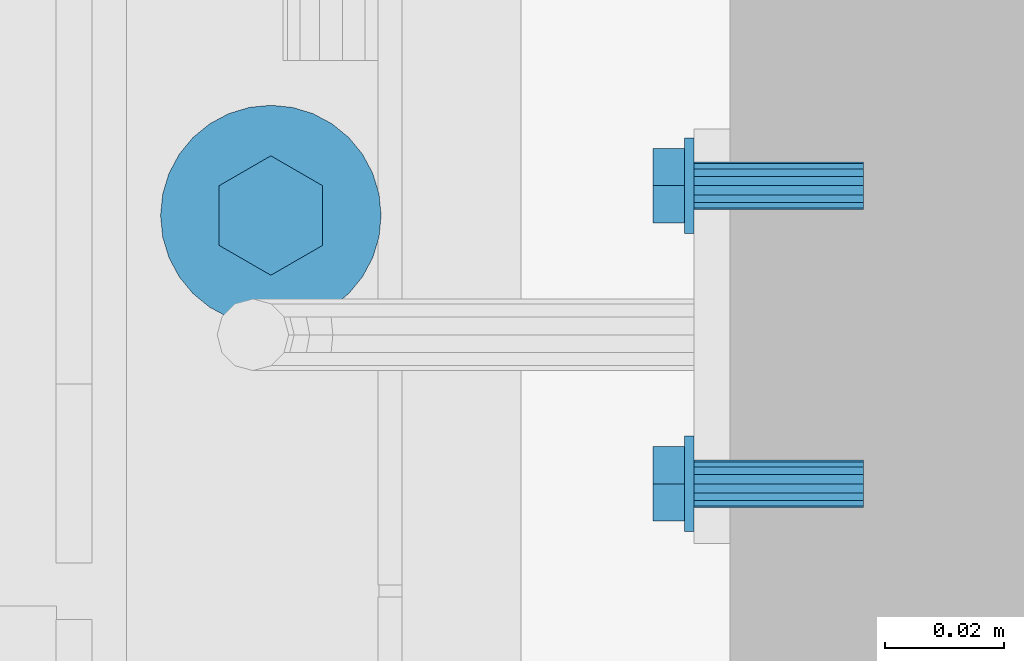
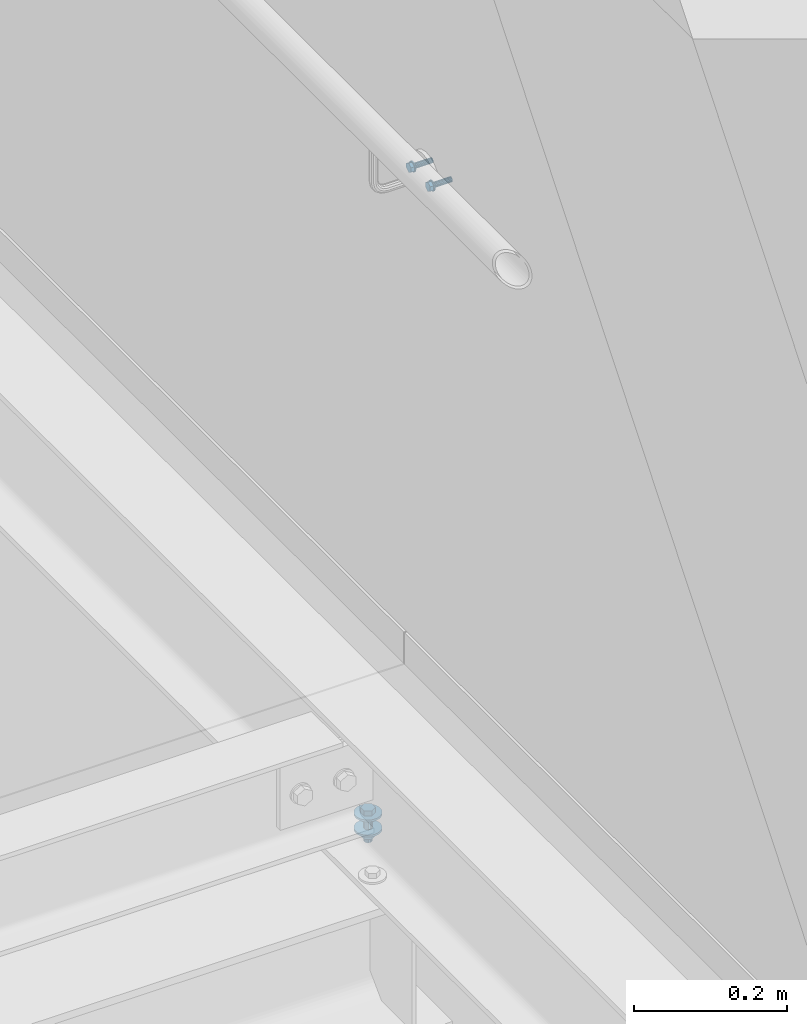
# One storey, part 314 of 410: 2 mechanical fasteners.
"""IFC2X3 building model written with IfcOpenShell, lengths in millimetres."""

from ifc_helpers import new_model, entity, si_unit, converted_unit, origin_with_axes, place, context, project, spatial, faceted_brep, element, save


model = new_model("IFC2X3")

# Units and contexts
model_context = context("Model", 3, precision=1e-09, world=origin_with_axes())
ifc_project = project(units=[si_unit("LENGTHUNIT", "METRE", prefix="MILLI"), si_unit("AREAUNIT", "SQUARE_METRE"), si_unit("VOLUMEUNIT", "CUBIC_METRE"), converted_unit("PLANEANGLEUNIT", "DEGREE", entity("IfcPlaneAngleMeasure", 0.01745329), si_unit("PLANEANGLEUNIT", "RADIAN"), dimensions=[0, 0, 0, 0, 0, 0, 0])], contexts=[model_context])

# Site, building, storey
site_placement = place(None, origin_with_axes())
site = spatial("IfcSite", under=ifc_project, at=site_placement, Name="mKR Teilneubau & Sanierung BA1 - Ostfildern", CompositionType="ELEMENT")
building_placement = place(site_placement, origin_with_axes())
building = spatial("IfcBuilding", under=site, at=building_placement, Name="Struktur 1", CompositionType="ELEMENT")
storey_placement = place(building_placement, origin_with_axes())
storey = spatial("IfcBuildingStorey", under=building, at=storey_placement, Name="Default Storey", CompositionType="ELEMENT", Elevation=0.0)

# Mechanical fasteners
mechanical_fastener_1_placement = place(None, origin_with_axes())
element("IfcMechanicalFastener", 1, at=mechanical_fastener_1_placement, inside=storey, ObjectType="-", NominalDiameter=8.0, NominalLength=30.0, context=model_context, shape_type="Brep", body=[
    faceted_brep([(3282.399216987, 17006.000030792, 6657.6), (3283.999216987, 17006.000030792, 6657.6), (3283.999216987, 17005.846313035, 6656.039277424), (3282.399216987, 17005.846313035, 6656.039277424), (3283.999216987, 17005.391067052, 6654.538532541), (3282.399216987, 17005.391067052, 6654.538532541), (3283.999216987, 17004.65178769, 6653.155438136), (3282.399216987, 17004.65178769, 6653.155438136), (3283.999216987, 17003.656885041, 6651.94314575), (3282.399216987, 17003.656885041, 6651.94314575), (3283.999216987, 17002.444592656, 6650.948243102), (3282.399216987, 17002.444592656, 6650.948243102), (3283.999216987, 17001.061498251, 6650.20896374), (3282.399216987, 17001.061498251, 6650.20896374), (3283.999216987, 16999.560753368, 6649.753717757), (3282.399216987, 16999.560753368, 6649.753717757), (3283.999216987, 16998.000030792, 6649.6), (3282.399216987, 16998.000030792, 6649.6), (3283.999216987, 16996.439308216, 6649.753717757), (3282.399216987, 16996.439308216, 6649.753717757), (3283.999216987, 16994.938563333, 6650.20896374), (3282.399216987, 16994.938563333, 6650.20896374), (3283.999216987, 16993.555468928, 6650.948243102), (3282.399216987, 16993.555468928, 6650.948243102), (3283.999216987, 16992.343176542, 6651.94314575), (3282.399216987, 16992.343176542, 6651.94314575), (3283.999216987, 16991.348273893, 6653.155438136), (3282.399216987, 16991.348273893, 6653.155438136), (3283.999216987, 16990.608994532, 6654.538532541), (3282.399216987, 16990.608994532, 6654.538532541), (3283.999216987, 16990.153748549, 6656.039277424), (3282.399216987, 16990.153748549, 6656.039277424), (3283.999216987, 16990.000030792, 6657.6), (3282.399216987, 16990.000030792, 6657.6), (3283.999216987, 16990.153748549, 6659.160722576), (3282.399216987, 16990.153748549, 6659.160722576), (3283.999216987, 16990.608994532, 6660.661467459), (3282.399216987, 16990.608994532, 6660.661467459), (3283.999216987, 16991.348273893, 6662.044561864), (3282.399216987, 16991.348273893, 6662.044561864), (3283.999216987, 16992.343176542, 6663.256854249), (3282.399216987, 16992.343176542, 6663.256854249), (3283.999216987, 16993.555468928, 6664.251756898), (3282.399216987, 16993.555468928, 6664.251756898), (3283.999216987, 16994.938563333, 6664.99103626), (3282.399216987, 16994.938563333, 6664.99103626), (3283.999216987, 16996.439308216, 6665.446282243), (3282.399216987, 16996.439308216, 6665.446282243), (3283.999216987, 16998.000030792, 6665.6), (3282.399216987, 16998.000030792, 6665.6), (3283.999216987, 16999.560753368, 6665.446282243), (3282.399216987, 16999.560753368, 6665.446282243), (3283.999216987, 17001.061498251, 6664.99103626), (3282.399216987, 17001.061498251, 6664.99103626), (3283.999216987, 17002.444592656, 6664.251756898), (3282.399216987, 17002.444592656, 6664.251756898), (3283.999216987, 17003.656885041, 6663.256854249), (3282.399216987, 17003.656885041, 6663.256854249), (3283.999216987, 17004.65178769, 6662.044561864), (3282.399216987, 17004.65178769, 6662.044561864), (3283.999216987, 17005.391067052, 6660.661467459), (3282.399216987, 17005.391067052, 6660.661467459), (3283.999216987, 17005.846313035, 6659.160722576), (3282.399216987, 17005.846313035, 6659.160722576)], [[[0, 1, 2, 3]], [[3, 2, 4, 5]], [[5, 4, 6, 7]], [[7, 6, 8, 9]], [[9, 8, 10, 11]], [[11, 10, 12, 13]], [[13, 12, 14, 15]], [[15, 14, 16, 17]], [[17, 16, 18, 19]], [[19, 18, 20, 21]], [[21, 20, 22, 23]], [[23, 22, 24, 25]], [[25, 24, 26, 27]], [[27, 26, 28, 29]], [[29, 28, 30, 31]], [[31, 30, 32, 33]], [[33, 32, 34, 35]], [[35, 34, 36, 37]], [[37, 36, 38, 39]], [[39, 38, 40, 41]], [[41, 40, 42, 43]], [[43, 42, 44, 45]], [[45, 44, 46, 47]], [[47, 46, 48, 49]], [[49, 48, 50, 51]], [[51, 50, 52, 53]], [[53, 52, 54, 55]], [[55, 54, 56, 57]], [[57, 56, 58, 59]], [[59, 58, 60, 61]], [[61, 60, 62, 63]], [[63, 62, 1, 0]], [[0, 3, 5, 7, 9, 11, 13, 15, 17, 19, 21, 23, 25, 27, 29, 31, 33, 35, 37, 39, 41, 43, 45, 47, 49, 51, 53, 55, 57, 59, 61, 63]], [[1, 62, 60, 58, 56, 54, 52, 50, 48, 46, 44, 42, 40, 38, 36, 34, 32, 30, 28, 26, 24, 22, 20, 18, 16, 14, 12, 10, 8, 6, 4, 2]]]),
    faceted_brep([(3282.399216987, 17056.000030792, 6657.6), (3283.999216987, 17056.000030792, 6657.6), (3283.999216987, 17055.846313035, 6656.039277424), (3282.399216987, 17055.846313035, 6656.039277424), (3283.999216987, 17055.391067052, 6654.538532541), (3282.399216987, 17055.391067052, 6654.538532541), (3283.999216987, 17054.65178769, 6653.155438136), (3282.399216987, 17054.65178769, 6653.155438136), (3283.999216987, 17053.656885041, 6651.94314575), (3282.399216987, 17053.656885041, 6651.94314575), (3283.999216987, 17052.444592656, 6650.948243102), (3282.399216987, 17052.444592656, 6650.948243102), (3283.999216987, 17051.061498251, 6650.20896374), (3282.399216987, 17051.061498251, 6650.20896374), (3283.999216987, 17049.560753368, 6649.753717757), (3282.399216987, 17049.560753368, 6649.753717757), (3283.999216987, 17048.000030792, 6649.6), (3282.399216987, 17048.000030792, 6649.6), (3283.999216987, 17046.439308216, 6649.753717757), (3282.399216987, 17046.439308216, 6649.753717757), (3283.999216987, 17044.938563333, 6650.20896374), (3282.399216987, 17044.938563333, 6650.20896374), (3283.999216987, 17043.555468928, 6650.948243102), (3282.399216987, 17043.555468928, 6650.948243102), (3283.999216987, 17042.343176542, 6651.94314575), (3282.399216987, 17042.343176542, 6651.94314575), (3283.999216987, 17041.348273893, 6653.155438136), (3282.399216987, 17041.348273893, 6653.155438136), (3283.999216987, 17040.608994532, 6654.538532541), (3282.399216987, 17040.608994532, 6654.538532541), (3283.999216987, 17040.153748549, 6656.039277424), (3282.399216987, 17040.153748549, 6656.039277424), (3283.999216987, 17040.000030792, 6657.6), (3282.399216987, 17040.000030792, 6657.6), (3283.999216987, 17040.153748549, 6659.160722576), (3282.399216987, 17040.153748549, 6659.160722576), (3283.999216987, 17040.608994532, 6660.661467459), (3282.399216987, 17040.608994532, 6660.661467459), (3283.999216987, 17041.348273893, 6662.044561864), (3282.399216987, 17041.348273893, 6662.044561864), (3283.999216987, 17042.343176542, 6663.256854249), (3282.399216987, 17042.343176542, 6663.256854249), (3283.999216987, 17043.555468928, 6664.251756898), (3282.399216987, 17043.555468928, 6664.251756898), (3283.999216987, 17044.938563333, 6664.99103626), (3282.399216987, 17044.938563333, 6664.99103626), (3283.999216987, 17046.439308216, 6665.446282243), (3282.399216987, 17046.439308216, 6665.446282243), (3283.999216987, 17048.000030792, 6665.6), (3282.399216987, 17048.000030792, 6665.6), (3283.999216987, 17049.560753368, 6665.446282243), (3282.399216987, 17049.560753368, 6665.446282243), (3283.999216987, 17051.061498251, 6664.99103626), (3282.399216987, 17051.061498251, 6664.99103626), (3283.999216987, 17052.444592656, 6664.251756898), (3282.399216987, 17052.444592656, 6664.251756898), (3283.999216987, 17053.656885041, 6663.256854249), (3282.399216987, 17053.656885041, 6663.256854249), (3283.999216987, 17054.65178769, 6662.044561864), (3282.399216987, 17054.65178769, 6662.044561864), (3283.999216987, 17055.391067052, 6660.661467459), (3282.399216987, 17055.391067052, 6660.661467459), (3283.999216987, 17055.846313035, 6659.160722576), (3282.399216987, 17055.846313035, 6659.160722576)], [[[0, 1, 2, 3]], [[3, 2, 4, 5]], [[5, 4, 6, 7]], [[7, 6, 8, 9]], [[9, 8, 10, 11]], [[11, 10, 12, 13]], [[13, 12, 14, 15]], [[15, 14, 16, 17]], [[17, 16, 18, 19]], [[19, 18, 20, 21]], [[21, 20, 22, 23]], [[23, 22, 24, 25]], [[25, 24, 26, 27]], [[27, 26, 28, 29]], [[29, 28, 30, 31]], [[31, 30, 32, 33]], [[33, 32, 34, 35]], [[35, 34, 36, 37]], [[37, 36, 38, 39]], [[39, 38, 40, 41]], [[41, 40, 42, 43]], [[43, 42, 44, 45]], [[45, 44, 46, 47]], [[47, 46, 48, 49]], [[49, 48, 50, 51]], [[51, 50, 52, 53]], [[53, 52, 54, 55]], [[55, 54, 56, 57]], [[57, 56, 58, 59]], [[59, 58, 60, 61]], [[61, 60, 62, 63]], [[63, 62, 1, 0]], [[0, 3, 5, 7, 9, 11, 13, 15, 17, 19, 21, 23, 25, 27, 29, 31, 33, 35, 37, 39, 41, 43, 45, 47, 49, 51, 53, 55, 57, 59, 61, 63]], [[1, 62, 60, 58, 56, 54, 52, 50, 48, 46, 44, 42, 40, 38, 36, 34, 32, 30, 28, 26, 24, 22, 20, 18, 16, 14, 12, 10, 8, 6, 4, 2]]]),
    faceted_brep([(3282.399216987, 16991.773308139, 6654.005), (3277.099216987, 16991.773308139, 6654.005), (3277.099216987, 16998.000030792, 6650.41), (3282.399216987, 16998.000030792, 6650.41), (3277.099216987, 17004.226753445, 6654.005), (3282.399216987, 17004.226753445, 6654.005), (3277.099216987, 17004.226753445, 6661.195), (3282.399216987, 17004.226753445, 6661.195), (3277.099216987, 16998.000030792, 6664.79), (3282.399216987, 16998.000030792, 6664.79), (3277.099216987, 16991.773308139, 6661.195), (3282.399216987, 16991.773308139, 6661.195)], [[[0, 1, 2, 3]], [[3, 2, 4, 5]], [[5, 4, 6, 7]], [[7, 6, 8, 9]], [[9, 8, 10, 11]], [[11, 10, 1, 0]], [[4, 2, 1, 10, 8, 6]], [[0, 3, 5, 7, 9, 11]]]),
    faceted_brep([(3282.399216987, 17041.773308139, 6654.005), (3277.099216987, 17041.773308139, 6654.005), (3277.099216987, 17048.000030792, 6650.41), (3282.399216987, 17048.000030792, 6650.41), (3277.099216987, 17054.226753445, 6654.005), (3282.399216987, 17054.226753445, 6654.005), (3277.099216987, 17054.226753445, 6661.195), (3282.399216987, 17054.226753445, 6661.195), (3277.099216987, 17048.000030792, 6664.79), (3282.399216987, 17048.000030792, 6664.79), (3277.099216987, 17041.773308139, 6661.195), (3282.399216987, 17041.773308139, 6661.195)], [[[0, 1, 2, 3]], [[3, 2, 4, 5]], [[5, 4, 6, 7]], [[7, 6, 8, 9]], [[9, 8, 10, 11]], [[11, 10, 1, 0]], [[4, 2, 1, 10, 8, 6]], [[0, 3, 5, 7, 9, 11]]]),
    faceted_brep([(3283.999216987, 17002.000030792, 6657.6), (3293.999216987, 17002.000030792, 6657.6), (3293.999216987, 17001.695548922, 6656.069266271), (3283.999216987, 17001.695548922, 6656.069266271), (3293.999216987, 17000.828457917, 6654.771572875), (3283.999216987, 17000.828457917, 6654.771572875), (3293.999216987, 16999.530764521, 6653.90448187), (3283.999216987, 16999.530764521, 6653.90448187), (3293.999216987, 16998.000030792, 6653.6), (3283.999216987, 16998.000030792, 6653.6), (3293.999216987, 16996.469297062, 6653.90448187), (3283.999216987, 16996.469297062, 6653.90448187), (3293.999216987, 16995.171603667, 6654.771572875), (3283.999216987, 16995.171603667, 6654.771572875), (3293.999216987, 16994.304512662, 6656.069266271), (3283.999216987, 16994.304512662, 6656.069266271), (3293.999216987, 16994.000030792, 6657.6), (3283.999216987, 16994.000030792, 6657.6), (3293.999216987, 16994.304512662, 6659.130733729), (3283.999216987, 16994.304512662, 6659.130733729), (3293.999216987, 16995.171603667, 6660.428427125), (3283.999216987, 16995.171603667, 6660.428427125), (3293.999216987, 16996.469297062, 6661.29551813), (3283.999216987, 16996.469297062, 6661.29551813), (3293.999216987, 16998.000030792, 6661.6), (3283.999216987, 16998.000030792, 6661.6), (3293.999216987, 16999.530764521, 6661.29551813), (3283.999216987, 16999.530764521, 6661.29551813), (3293.999216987, 17000.828457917, 6660.428427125), (3283.999216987, 17000.828457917, 6660.428427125), (3293.999216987, 17001.695548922, 6659.130733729), (3283.999216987, 17001.695548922, 6659.130733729)], [[[0, 1, 2, 3]], [[3, 2, 4, 5]], [[5, 4, 6, 7]], [[7, 6, 8, 9]], [[9, 8, 10, 11]], [[11, 10, 12, 13]], [[13, 12, 14, 15]], [[15, 14, 16, 17]], [[17, 16, 18, 19]], [[19, 18, 20, 21]], [[21, 20, 22, 23]], [[23, 22, 24, 25]], [[25, 24, 26, 27]], [[27, 26, 28, 29]], [[29, 28, 30, 31]], [[31, 30, 1, 0]], [[0, 3, 5, 7, 9, 11, 13, 15, 17, 19, 21, 23, 25, 27, 29, 31]], [[1, 30, 28, 26, 24, 22, 20, 18, 16, 14, 12, 10, 8, 6, 4, 2]]]),
    faceted_brep([(3283.999216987, 17052.000030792, 6657.6), (3293.999216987, 17052.000030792, 6657.6), (3293.999216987, 17051.695548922, 6656.069266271), (3283.999216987, 17051.695548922, 6656.069266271), (3293.999216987, 17050.828457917, 6654.771572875), (3283.999216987, 17050.828457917, 6654.771572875), (3293.999216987, 17049.530764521, 6653.90448187), (3283.999216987, 17049.530764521, 6653.90448187), (3293.999216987, 17048.000030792, 6653.6), (3283.999216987, 17048.000030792, 6653.6), (3293.999216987, 17046.469297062, 6653.90448187), (3283.999216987, 17046.469297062, 6653.90448187), (3293.999216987, 17045.171603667, 6654.771572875), (3283.999216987, 17045.171603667, 6654.771572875), (3293.999216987, 17044.304512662, 6656.069266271), (3283.999216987, 17044.304512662, 6656.069266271), (3293.999216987, 17044.000030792, 6657.6), (3283.999216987, 17044.000030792, 6657.6), (3293.999216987, 17044.304512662, 6659.130733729), (3283.999216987, 17044.304512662, 6659.130733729), (3293.999216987, 17045.171603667, 6660.428427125), (3283.999216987, 17045.171603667, 6660.428427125), (3293.999216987, 17046.469297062, 6661.29551813), (3283.999216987, 17046.469297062, 6661.29551813), (3293.999216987, 17048.000030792, 6661.6), (3283.999216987, 17048.000030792, 6661.6), (3293.999216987, 17049.530764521, 6661.29551813), (3283.999216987, 17049.530764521, 6661.29551813), (3293.999216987, 17050.828457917, 6660.428427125), (3283.999216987, 17050.828457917, 6660.428427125), (3293.999216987, 17051.695548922, 6659.130733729), (3283.999216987, 17051.695548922, 6659.130733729)], [[[0, 1, 2, 3]], [[3, 2, 4, 5]], [[5, 4, 6, 7]], [[7, 6, 8, 9]], [[9, 8, 10, 11]], [[11, 10, 12, 13]], [[13, 12, 14, 15]], [[15, 14, 16, 17]], [[17, 16, 18, 19]], [[19, 18, 20, 21]], [[21, 20, 22, 23]], [[23, 22, 24, 25]], [[25, 24, 26, 27]], [[27, 26, 28, 29]], [[29, 28, 30, 31]], [[31, 30, 1, 0]], [[0, 3, 5, 7, 9, 11, 13, 15, 17, 19, 21, 23, 25, 27, 29, 31]], [[1, 30, 28, 26, 24, 22, 20, 18, 16, 14, 12, 10, 8, 6, 4, 2]]]),
    faceted_brep([(3293.999216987, 17002.000030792, 6657.6), (3312.399216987, 17002.000030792, 6657.6), (3312.399216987, 17001.695548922, 6656.069266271), (3293.999216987, 17001.695548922, 6656.069266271), (3312.399216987, 17000.828457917, 6654.771572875), (3293.999216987, 17000.828457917, 6654.771572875), (3312.399216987, 16999.530764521, 6653.90448187), (3293.999216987, 16999.530764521, 6653.90448187), (3312.399216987, 16998.000030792, 6653.6), (3293.999216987, 16998.000030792, 6653.6), (3312.399216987, 16996.469297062, 6653.90448187), (3293.999216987, 16996.469297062, 6653.90448187), (3312.399216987, 16995.171603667, 6654.771572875), (3293.999216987, 16995.171603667, 6654.771572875), (3312.399216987, 16994.304512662, 6656.069266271), (3293.999216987, 16994.304512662, 6656.069266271), (3312.399216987, 16994.000030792, 6657.6), (3293.999216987, 16994.000030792, 6657.6), (3312.399216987, 16994.304512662, 6659.130733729), (3293.999216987, 16994.304512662, 6659.130733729), (3312.399216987, 16995.171603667, 6660.428427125), (3293.999216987, 16995.171603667, 6660.428427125), (3312.399216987, 16996.469297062, 6661.29551813), (3293.999216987, 16996.469297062, 6661.29551813), (3312.399216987, 16998.000030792, 6661.6), (3293.999216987, 16998.000030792, 6661.6), (3312.399216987, 16999.530764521, 6661.29551813), (3293.999216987, 16999.530764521, 6661.29551813), (3312.399216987, 17000.828457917, 6660.428427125), (3293.999216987, 17000.828457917, 6660.428427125), (3312.399216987, 17001.695548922, 6659.130733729), (3293.999216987, 17001.695548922, 6659.130733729)], [[[0, 1, 2, 3]], [[3, 2, 4, 5]], [[5, 4, 6, 7]], [[7, 6, 8, 9]], [[9, 8, 10, 11]], [[11, 10, 12, 13]], [[13, 12, 14, 15]], [[15, 14, 16, 17]], [[17, 16, 18, 19]], [[19, 18, 20, 21]], [[21, 20, 22, 23]], [[23, 22, 24, 25]], [[25, 24, 26, 27]], [[27, 26, 28, 29]], [[29, 28, 30, 31]], [[31, 30, 1, 0]], [[0, 3, 5, 7, 9, 11, 13, 15, 17, 19, 21, 23, 25, 27, 29, 31]], [[1, 30, 28, 26, 24, 22, 20, 18, 16, 14, 12, 10, 8, 6, 4, 2]]]),
    faceted_brep([(3293.999216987, 17052.000030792, 6657.6), (3312.399216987, 17052.000030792, 6657.6), (3312.399216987, 17051.695548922, 6656.069266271), (3293.999216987, 17051.695548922, 6656.069266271), (3312.399216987, 17050.828457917, 6654.771572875), (3293.999216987, 17050.828457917, 6654.771572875), (3312.399216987, 17049.530764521, 6653.90448187), (3293.999216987, 17049.530764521, 6653.90448187), (3312.399216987, 17048.000030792, 6653.6), (3293.999216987, 17048.000030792, 6653.6), (3312.399216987, 17046.469297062, 6653.90448187), (3293.999216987, 17046.469297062, 6653.90448187), (3312.399216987, 17045.171603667, 6654.771572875), (3293.999216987, 17045.171603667, 6654.771572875), (3312.399216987, 17044.304512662, 6656.069266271), (3293.999216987, 17044.304512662, 6656.069266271), (3312.399216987, 17044.000030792, 6657.6), (3293.999216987, 17044.000030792, 6657.6), (3312.399216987, 17044.304512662, 6659.130733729), (3293.999216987, 17044.304512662, 6659.130733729), (3312.399216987, 17045.171603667, 6660.428427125), (3293.999216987, 17045.171603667, 6660.428427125), (3312.399216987, 17046.469297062, 6661.29551813), (3293.999216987, 17046.469297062, 6661.29551813), (3312.399216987, 17048.000030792, 6661.6), (3293.999216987, 17048.000030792, 6661.6), (3312.399216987, 17049.530764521, 6661.29551813), (3293.999216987, 17049.530764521, 6661.29551813), (3312.399216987, 17050.828457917, 6660.428427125), (3293.999216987, 17050.828457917, 6660.428427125), (3312.399216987, 17051.695548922, 6659.130733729), (3293.999216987, 17051.695548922, 6659.130733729)], [[[0, 1, 2, 3]], [[3, 2, 4, 5]], [[5, 4, 6, 7]], [[7, 6, 8, 9]], [[9, 8, 10, 11]], [[11, 10, 12, 13]], [[13, 12, 14, 15]], [[15, 14, 16, 17]], [[17, 16, 18, 19]], [[19, 18, 20, 21]], [[21, 20, 22, 23]], [[23, 22, 24, 25]], [[25, 24, 26, 27]], [[27, 26, 28, 29]], [[29, 28, 30, 31]], [[31, 30, 1, 0]], [[0, 3, 5, 7, 9, 11, 13, 15, 17, 19, 21, 23, 25, 27, 29, 31]], [[1, 30, 28, 26, 24, 22, 20, 18, 16, 14, 12, 10, 8, 6, 4, 2]]]),
])
mechanical_fastener_2_placement = place(None, origin_with_axes())
element("IfcMechanicalFastener", 2, at=mechanical_fastener_2_placement, inside=storey, ObjectType="Bolt", NominalDiameter=12.0, NominalLength=45.0, context=model_context, shape_type="Brep", body=[
    faceted_brep([(3231.501468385, 17043.0, 5654.200000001), (3231.501468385, 17043.0, 5657.200000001), (3231.145996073, 17039.390829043, 5657.200000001), (3231.145996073, 17039.390829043, 5654.200000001), (3230.093239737, 17035.920356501, 5657.200000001), (3230.093239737, 17035.920356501, 5654.200000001), (3228.383656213, 17032.721950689, 5657.200000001), (3228.383656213, 17032.721950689, 5654.200000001), (3226.082943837, 17029.918524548, 5657.200000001), (3226.082943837, 17029.918524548, 5654.200000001), (3223.279517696, 17027.617812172, 5657.200000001), (3223.279517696, 17027.617812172, 5654.200000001), (3220.081111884, 17025.908228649, 5657.200000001), (3220.081111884, 17025.908228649, 5654.200000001), (3216.610639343, 17024.855472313, 5657.200000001), (3216.610639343, 17024.855472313, 5654.200000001), (3213.001468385, 17024.5, 5657.200000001), (3213.001468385, 17024.5, 5654.200000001), (3209.392297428, 17024.855472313, 5657.200000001), (3209.392297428, 17024.855472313, 5654.200000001), (3205.921824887, 17025.908228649, 5657.200000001), (3205.921824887, 17025.908228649, 5654.200000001), (3202.723419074, 17027.617812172, 5657.200000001), (3202.723419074, 17027.617812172, 5654.200000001), (3199.919992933, 17029.918524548, 5657.200000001), (3199.919992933, 17029.918524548, 5654.200000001), (3197.619280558, 17032.721950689, 5657.200000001), (3197.619280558, 17032.721950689, 5654.200000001), (3195.909697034, 17035.920356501, 5657.200000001), (3195.909697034, 17035.920356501, 5654.200000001), (3194.856940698, 17039.390829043, 5657.200000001), (3194.856940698, 17039.390829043, 5654.200000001), (3194.501468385, 17043.0, 5657.200000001), (3194.501468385, 17043.0, 5654.200000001), (3194.856940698, 17046.609170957, 5657.200000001), (3194.856940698, 17046.609170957, 5654.200000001), (3195.909697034, 17050.079643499, 5657.200000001), (3195.909697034, 17050.079643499, 5654.200000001), (3197.619280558, 17053.278049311, 5657.200000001), (3197.619280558, 17053.278049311, 5654.200000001), (3199.919992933, 17056.081475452, 5657.200000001), (3199.919992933, 17056.081475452, 5654.200000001), (3202.723419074, 17058.382187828, 5657.200000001), (3202.723419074, 17058.382187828, 5654.200000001), (3205.921824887, 17060.091771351, 5657.200000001), (3205.921824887, 17060.091771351, 5654.200000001), (3209.392297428, 17061.144527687, 5657.200000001), (3209.392297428, 17061.144527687, 5654.200000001), (3213.001468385, 17061.5, 5657.200000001), (3213.001468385, 17061.5, 5654.200000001), (3216.610639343, 17061.144527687, 5657.200000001), (3216.610639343, 17061.144527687, 5654.200000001), (3220.081111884, 17060.091771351, 5657.200000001), (3220.081111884, 17060.091771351, 5654.200000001), (3223.279517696, 17058.382187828, 5657.200000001), (3223.279517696, 17058.382187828, 5654.200000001), (3226.082943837, 17056.081475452, 5657.200000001), (3226.082943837, 17056.081475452, 5654.200000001), (3228.383656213, 17053.278049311, 5657.200000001), (3228.383656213, 17053.278049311, 5654.200000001), (3230.093239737, 17050.079643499, 5657.200000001), (3230.093239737, 17050.079643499, 5654.200000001), (3231.145996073, 17046.609170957, 5657.200000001), (3231.145996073, 17046.609170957, 5654.200000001)], [[[0, 1, 2, 3]], [[3, 2, 4, 5]], [[5, 4, 6, 7]], [[7, 6, 8, 9]], [[9, 8, 10, 11]], [[11, 10, 12, 13]], [[13, 12, 14, 15]], [[15, 14, 16, 17]], [[17, 16, 18, 19]], [[19, 18, 20, 21]], [[21, 20, 22, 23]], [[23, 22, 24, 25]], [[25, 24, 26, 27]], [[27, 26, 28, 29]], [[29, 28, 30, 31]], [[31, 30, 32, 33]], [[33, 32, 34, 35]], [[35, 34, 36, 37]], [[37, 36, 38, 39]], [[39, 38, 40, 41]], [[41, 40, 42, 43]], [[43, 42, 44, 45]], [[45, 44, 46, 47]], [[47, 46, 48, 49]], [[49, 48, 50, 51]], [[51, 50, 52, 53]], [[53, 52, 54, 55]], [[55, 54, 56, 57]], [[57, 56, 58, 59]], [[59, 58, 60, 61]], [[61, 60, 62, 63]], [[63, 62, 1, 0]], [[2, 1, 62, 60, 58, 56, 54, 52, 50, 48, 46, 44, 42, 40, 38, 36, 34, 32, 30, 28, 26, 24, 22, 20, 18, 16, 14, 12, 10, 8, 6, 4]], [[63, 0, 3, 5, 7, 9, 11, 13, 15, 17, 19, 21, 23, 25, 27, 29, 31, 33, 35, 37, 39, 41, 43, 45, 47, 49, 51, 53, 55, 57, 59, 61]]]),
    faceted_brep([(3204.328223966, 17037.9925, 5664.700000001), (3204.328223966, 17037.9925, 5657.200000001), (3213.001468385, 17032.985, 5657.200000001), (3213.001468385, 17032.985, 5664.700000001), (3221.674712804, 17037.9925, 5657.200000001), (3221.674712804, 17037.9925, 5664.700000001), (3221.674712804, 17048.0075, 5657.200000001), (3221.674712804, 17048.0075, 5664.700000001), (3213.001468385, 17053.015, 5657.200000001), (3213.001468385, 17053.015, 5664.700000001), (3204.328223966, 17048.0075, 5657.200000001), (3204.328223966, 17048.0075, 5664.700000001)], [[[0, 1, 2, 3]], [[3, 2, 4, 5]], [[5, 4, 6, 7]], [[7, 6, 8, 9]], [[9, 8, 10, 11]], [[11, 10, 1, 0]], [[3, 5, 7, 9, 11, 0]], [[2, 1, 10, 8, 6, 4]]]),
    faceted_brep([(3219.001468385, 17043.0, 5633.0), (3219.001468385, 17043.0, 5654.2), (3218.54474558, 17040.703899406, 5654.2), (3218.54474558, 17040.703899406, 5633.0), (3217.244109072, 17038.757359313, 5654.2), (3217.244109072, 17038.757359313, 5633.0), (3215.29756898, 17037.456722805, 5654.2), (3215.29756898, 17037.456722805, 5633.0), (3213.001468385, 17037.0, 5654.2), (3213.001468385, 17037.0, 5633.0), (3210.705367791, 17037.456722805, 5654.2), (3210.705367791, 17037.456722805, 5633.0), (3208.758827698, 17038.757359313, 5654.2), (3208.758827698, 17038.757359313, 5633.0), (3207.45819119, 17040.703899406, 5654.2), (3207.45819119, 17040.703899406, 5633.0), (3207.001468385, 17043.0, 5654.2), (3207.001468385, 17043.0, 5633.0), (3207.45819119, 17045.296100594, 5654.2), (3207.45819119, 17045.296100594, 5633.0), (3208.758827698, 17047.242640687, 5654.2), (3208.758827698, 17047.242640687, 5633.0), (3210.705367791, 17048.543277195, 5654.2), (3210.705367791, 17048.543277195, 5633.0), (3213.001468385, 17049.0, 5654.2), (3213.001468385, 17049.0, 5633.0), (3215.29756898, 17048.543277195, 5654.2), (3215.29756898, 17048.543277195, 5633.0), (3217.244109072, 17047.242640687, 5654.2), (3217.244109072, 17047.242640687, 5633.0), (3218.54474558, 17045.296100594, 5654.2), (3218.54474558, 17045.296100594, 5633.0)], [[[0, 1, 2, 3]], [[3, 2, 4, 5]], [[5, 4, 6, 7]], [[7, 6, 8, 9]], [[9, 8, 10, 11]], [[11, 10, 12, 13]], [[13, 12, 14, 15]], [[15, 14, 16, 17]], [[17, 16, 18, 19]], [[19, 18, 20, 21]], [[21, 20, 22, 23]], [[23, 22, 24, 25]], [[25, 24, 26, 27]], [[27, 26, 28, 29]], [[29, 28, 30, 31]], [[31, 30, 1, 0]], [[2, 1, 30, 28, 26, 24, 22, 20, 18, 16, 14, 12, 10, 8, 6, 4]], [[31, 0, 3, 5, 7, 9, 11, 13, 15, 17, 19, 21, 23, 25, 27, 29]]]),
    faceted_brep([(3231.501468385, 17043.0, 5630.0), (3231.501468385, 17043.0, 5633.0), (3231.145996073, 17039.390829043, 5633.0), (3231.145996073, 17039.390829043, 5630.0), (3230.093239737, 17035.920356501, 5633.0), (3230.093239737, 17035.920356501, 5630.0), (3228.383656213, 17032.721950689, 5633.0), (3228.383656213, 17032.721950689, 5630.0), (3226.082943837, 17029.918524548, 5633.0), (3226.082943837, 17029.918524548, 5630.0), (3223.279517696, 17027.617812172, 5633.0), (3223.279517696, 17027.617812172, 5630.0), (3220.081111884, 17025.908228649, 5633.0), (3220.081111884, 17025.908228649, 5630.0), (3216.610639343, 17024.855472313, 5633.0), (3216.610639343, 17024.855472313, 5630.0), (3213.001468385, 17024.5, 5633.0), (3213.001468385, 17024.5, 5630.0), (3209.392297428, 17024.855472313, 5633.0), (3209.392297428, 17024.855472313, 5630.0), (3205.921824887, 17025.908228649, 5633.0), (3205.921824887, 17025.908228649, 5630.0), (3202.723419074, 17027.617812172, 5633.0), (3202.723419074, 17027.617812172, 5630.0), (3199.919992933, 17029.918524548, 5633.0), (3199.919992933, 17029.918524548, 5630.0), (3197.619280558, 17032.721950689, 5633.0), (3197.619280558, 17032.721950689, 5630.0), (3195.909697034, 17035.920356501, 5633.0), (3195.909697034, 17035.920356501, 5630.0), (3194.856940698, 17039.390829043, 5633.0), (3194.856940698, 17039.390829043, 5630.0), (3194.501468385, 17043.0, 5633.0), (3194.501468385, 17043.0, 5630.0), (3194.856940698, 17046.609170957, 5633.0), (3194.856940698, 17046.609170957, 5630.0), (3195.909697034, 17050.079643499, 5633.0), (3195.909697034, 17050.079643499, 5630.0), (3197.619280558, 17053.278049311, 5633.0), (3197.619280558, 17053.278049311, 5630.0), (3199.919992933, 17056.081475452, 5633.0), (3199.919992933, 17056.081475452, 5630.0), (3202.723419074, 17058.382187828, 5633.0), (3202.723419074, 17058.382187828, 5630.0), (3205.921824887, 17060.091771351, 5633.0), (3205.921824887, 17060.091771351, 5630.0), (3209.392297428, 17061.144527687, 5633.0), (3209.392297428, 17061.144527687, 5630.0), (3213.001468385, 17061.5, 5633.0), (3213.001468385, 17061.5, 5630.0), (3216.610639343, 17061.144527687, 5633.0), (3216.610639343, 17061.144527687, 5630.0), (3220.081111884, 17060.091771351, 5633.0), (3220.081111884, 17060.091771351, 5630.0), (3223.279517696, 17058.382187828, 5633.0), (3223.279517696, 17058.382187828, 5630.0), (3226.082943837, 17056.081475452, 5633.0), (3226.082943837, 17056.081475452, 5630.0), (3228.383656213, 17053.278049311, 5633.0), (3228.383656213, 17053.278049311, 5630.0), (3230.093239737, 17050.079643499, 5633.0), (3230.093239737, 17050.079643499, 5630.0), (3231.145996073, 17046.609170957, 5633.0), (3231.145996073, 17046.609170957, 5630.0)], [[[0, 1, 2, 3]], [[3, 2, 4, 5]], [[5, 4, 6, 7]], [[7, 6, 8, 9]], [[9, 8, 10, 11]], [[11, 10, 12, 13]], [[13, 12, 14, 15]], [[15, 14, 16, 17]], [[17, 16, 18, 19]], [[19, 18, 20, 21]], [[21, 20, 22, 23]], [[23, 22, 24, 25]], [[25, 24, 26, 27]], [[27, 26, 28, 29]], [[29, 28, 30, 31]], [[31, 30, 32, 33]], [[33, 32, 34, 35]], [[35, 34, 36, 37]], [[37, 36, 38, 39]], [[39, 38, 40, 41]], [[41, 40, 42, 43]], [[43, 42, 44, 45]], [[45, 44, 46, 47]], [[47, 46, 48, 49]], [[49, 48, 50, 51]], [[51, 50, 52, 53]], [[53, 52, 54, 55]], [[55, 54, 56, 57]], [[57, 56, 58, 59]], [[59, 58, 60, 61]], [[61, 60, 62, 63]], [[63, 62, 1, 0]], [[2, 1, 62, 60, 58, 56, 54, 52, 50, 48, 46, 44, 42, 40, 38, 36, 34, 32, 30, 28, 26, 24, 22, 20, 18, 16, 14, 12, 10, 8, 6, 4]], [[63, 0, 3, 5, 7, 9, 11, 13, 15, 17, 19, 21, 23, 25, 27, 29, 31, 33, 35, 37, 39, 41, 43, 45, 47, 49, 51, 53, 55, 57, 59, 61]]]),
    faceted_brep([(3203.864900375, 17037.725, 5630.0), (3203.864900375, 17037.725, 5620.0), (3213.001468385, 17032.45, 5620.0), (3213.001468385, 17032.45, 5630.0), (3222.138036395, 17037.725, 5620.0), (3222.138036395, 17037.725, 5630.0), (3222.138036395, 17048.275, 5620.0), (3222.138036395, 17048.275, 5630.0), (3213.001468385, 17053.55, 5620.0), (3213.001468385, 17053.55, 5630.0), (3203.864900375, 17048.275, 5620.0), (3203.864900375, 17048.275, 5630.0)], [[[0, 1, 2, 3]], [[3, 2, 4, 5]], [[5, 4, 6, 7]], [[7, 6, 8, 9]], [[9, 8, 10, 11]], [[11, 10, 1, 0]], [[3, 5, 7, 9, 11, 0]], [[2, 1, 10, 8, 6, 4]]]),
    faceted_brep([(3219.001468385, 17043.0, 5612.200000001), (3219.001468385, 17043.0, 5620.0), (3218.54474558, 17040.703899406, 5620.0), (3218.54474558, 17040.703899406, 5612.200000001), (3217.244109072, 17038.757359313, 5620.0), (3217.244109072, 17038.757359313, 5612.200000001), (3215.29756898, 17037.456722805, 5620.0), (3215.29756898, 17037.456722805, 5612.200000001), (3213.001468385, 17037.0, 5620.0), (3213.001468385, 17037.0, 5612.200000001), (3210.705367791, 17037.456722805, 5620.0), (3210.705367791, 17037.456722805, 5612.200000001), (3208.758827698, 17038.757359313, 5620.0), (3208.758827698, 17038.757359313, 5612.200000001), (3207.45819119, 17040.703899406, 5620.0), (3207.45819119, 17040.703899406, 5612.200000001), (3207.001468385, 17043.0, 5620.0), (3207.001468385, 17043.0, 5612.200000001), (3207.45819119, 17045.296100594, 5620.0), (3207.45819119, 17045.296100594, 5612.200000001), (3208.758827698, 17047.242640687, 5620.0), (3208.758827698, 17047.242640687, 5612.200000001), (3210.705367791, 17048.543277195, 5620.0), (3210.705367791, 17048.543277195, 5612.200000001), (3213.001468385, 17049.0, 5620.0), (3213.001468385, 17049.0, 5612.200000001), (3215.29756898, 17048.543277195, 5620.0), (3215.29756898, 17048.543277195, 5612.200000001), (3217.244109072, 17047.242640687, 5620.0), (3217.244109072, 17047.242640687, 5612.200000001), (3218.54474558, 17045.296100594, 5620.0), (3218.54474558, 17045.296100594, 5612.200000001)], [[[0, 1, 2, 3]], [[3, 2, 4, 5]], [[5, 4, 6, 7]], [[7, 6, 8, 9]], [[9, 8, 10, 11]], [[11, 10, 12, 13]], [[13, 12, 14, 15]], [[15, 14, 16, 17]], [[17, 16, 18, 19]], [[19, 18, 20, 21]], [[21, 20, 22, 23]], [[23, 22, 24, 25]], [[25, 24, 26, 27]], [[27, 26, 28, 29]], [[29, 28, 30, 31]], [[31, 30, 1, 0]], [[2, 1, 30, 28, 26, 24, 22, 20, 18, 16, 14, 12, 10, 8, 6, 4]], [[31, 0, 3, 5, 7, 9, 11, 13, 15, 17, 19, 21, 23, 25, 27, 29]]]),
])

save(model, "model.ifc")
